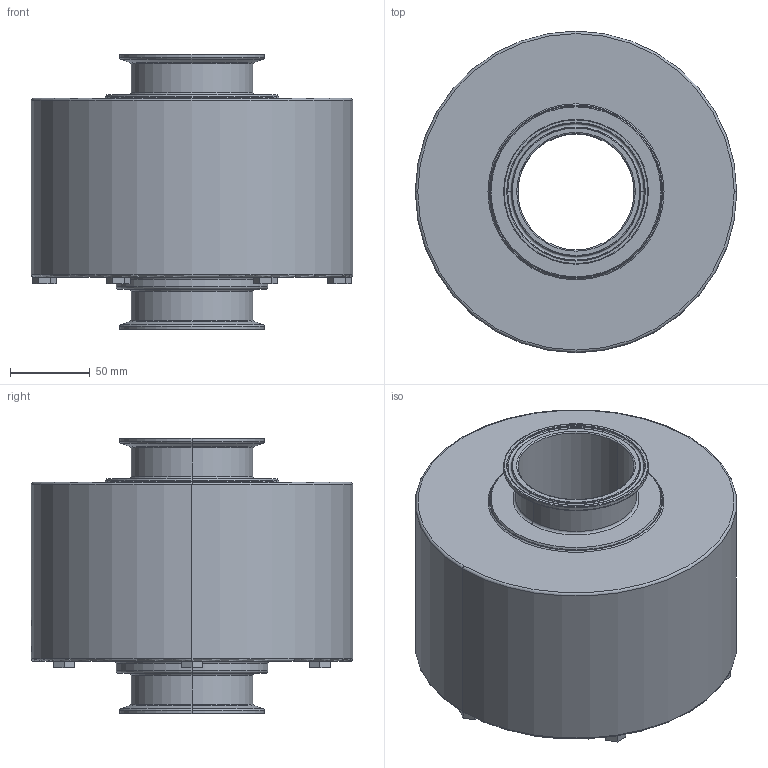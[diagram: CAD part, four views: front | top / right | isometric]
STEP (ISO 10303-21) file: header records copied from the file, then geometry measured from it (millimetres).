
FILE_DESCRIPTION (( 'STEP AP214' ), '1' );
FILE_NAME ('SCS(M)-611010.STEP', '2013-01-28T16:01:03', ( '' ), ( '' ), 'SwSTEP 2.0', 'SolidWorks 2011', '' );
FILE_SCHEMA (( 'AUTOMOTIVE_DESIGN' ));
Length unit declared in the file: inch
Products named in the file (1): SCS(M)-611010
Bounding box: 201.63 x 201.63 x 172.97 mm (x, y, z)
Volume: 3180018.1 mm3; surface area: 192304.5 mm2
Topology: 1 solids, 7 shells, 167 faces, 374 edges, 214 vertices
Faces by surface type: plane 63, torus 40, cone 32, cylinder 32
Entity records: 5344 total; most frequent: CARTESIAN_POINT 868, DIRECTION 860, ORIENTED_EDGE 716, EDGE_CURVE 358, AXIS2_PLACEMENT_3D 338, VERTEX_POINT 214, LINE 184, VECTOR 184
